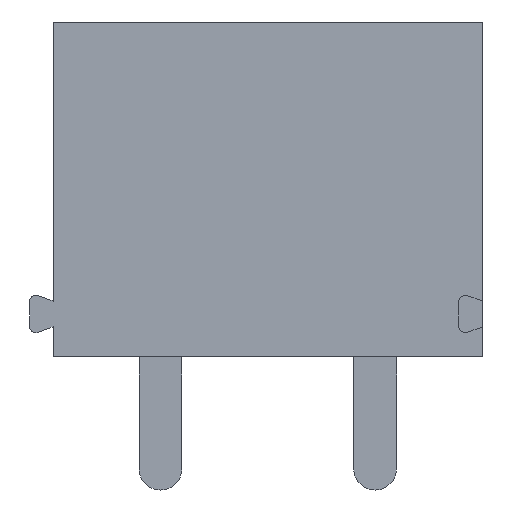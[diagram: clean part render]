
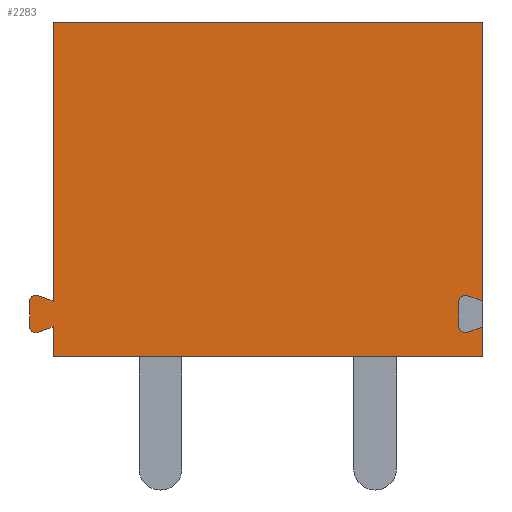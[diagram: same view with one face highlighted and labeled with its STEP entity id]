
A CAD part, front view. The second image highlights one B-rep face of the part: STEP entity #2283.
In plain terms, the highlighted planar face has unit normal (0, -1, 0).
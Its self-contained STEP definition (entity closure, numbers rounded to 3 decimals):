
#20 = EDGE_CURVE ( 'NONE', #3886, #2847, #743, .T. ) ;
#26 = EDGE_LOOP ( 'NONE', ( #552, #3804, #2532, #2043, #805, #1462, #2980, #870, #3319, #1274, #2500, #2586, #4011, #2347, #1061, #823, #2230 ) ) ;
#66 = VECTOR ( 'NONE', #956, 1000. ) ;
#172 = DIRECTION ( 'NONE',  ( 0.342, 0., 0.94 ) ) ;
#186 = VERTEX_POINT ( 'NONE', #1724 ) ;
#188 = CARTESIAN_POINT ( 'NONE',  ( 0., 0., 7.8 ) ) ;
#279 = DIRECTION ( 'NONE',  ( 0., -1., 0. ) ) ;
#298 = CARTESIAN_POINT ( 'NONE',  ( 0., 0., 0. ) ) ;
#352 = DIRECTION ( 'NONE',  ( 0., -1., 0. ) ) ;
#389 = VECTOR ( 'NONE', #434, 1000. ) ;
#391 = CARTESIAN_POINT ( 'NONE',  ( 9.6, 0., 0.714 ) ) ;
#434 = DIRECTION ( 'NONE',  ( 0., 0., -1. ) ) ;
#443 = CARTESIAN_POINT ( 'NONE',  ( 9.651, 0., 0.573 ) ) ;
#488 = CARTESIAN_POINT ( 'NONE',  ( 9.651, 0., 0.573 ) ) ;
#528 = VECTOR ( 'NONE', #1631, 1000. ) ;
#543 = VERTEX_POINT ( 'NONE', #1488 ) ;
#552 = ORIENTED_EDGE ( 'NONE', *, *, #1972, .T. ) ;
#580 = DIRECTION ( 'NONE',  ( -1., 0., 0. ) ) ;
#612 = VERTEX_POINT ( 'NONE', #1866 ) ;
#642 = DIRECTION ( 'NONE',  ( 0., 0., -1. ) ) ;
#666 = VERTEX_POINT ( 'NONE', #1529 ) ;
#702 = CARTESIAN_POINT ( 'NONE',  ( -0.4, 0., 1.436 ) ) ;
#726 = EDGE_CURVE ( 'NONE', #2510, #3947, #2989, .T. ) ;
#736 = EDGE_CURVE ( 'NONE', #3947, #1721, #3744, .T. ) ;
#743 = LINE ( 'NONE', #758, #1285 ) ;
#758 = CARTESIAN_POINT ( 'NONE',  ( 10., 0., 0.7 ) ) ;
#777 = AXIS2_PLACEMENT_3D ( 'NONE', #2679, #778, #3004 ) ;
#778 = DIRECTION ( 'NONE',  ( 0., -1., 0. ) ) ;
#805 = ORIENTED_EDGE ( 'NONE', *, *, #3685, .T. ) ;
#823 = ORIENTED_EDGE ( 'NONE', *, *, #2863, .F. ) ;
#832 = EDGE_CURVE ( 'NONE', #3429, #612, #1559, .T. ) ;
#859 = CARTESIAN_POINT ( 'NONE',  ( 10., 0., 0. ) ) ;
#862 = VERTEX_POINT ( 'NONE', #298 ) ;
#870 = ORIENTED_EDGE ( 'NONE', *, *, #2438, .T. ) ;
#884 = DIRECTION ( 'NONE',  ( 0., -1., 0. ) ) ;
#885 = EDGE_CURVE ( 'NONE', #1721, #2896, #1091, .T. ) ;
#912 = AXIS2_PLACEMENT_3D ( 'NONE', #391, #2820, #1627 ) ;
#956 = DIRECTION ( 'NONE',  ( 0., 0., -1. ) ) ;
#1003 = LINE ( 'NONE', #1020, #528 ) ;
#1020 = CARTESIAN_POINT ( 'NONE',  ( 10., 0., 1.3 ) ) ;
#1057 = CARTESIAN_POINT ( 'NONE',  ( -0.349, 0., 1.427 ) ) ;
#1061 = ORIENTED_EDGE ( 'NONE', *, *, #3574, .F. ) ;
#1091 = CIRCLE ( 'NONE', #1550, 0.15 ) ;
#1097 = VECTOR ( 'NONE', #3235, 1000. ) ;
#1257 = DIRECTION ( 'NONE',  ( 0.94, 0., 0.342 ) ) ;
#1274 = ORIENTED_EDGE ( 'NONE', *, *, #20, .F. ) ;
#1285 = VECTOR ( 'NONE', #2296, 1000. ) ;
#1296 = VECTOR ( 'NONE', #1701, 1000. ) ;
#1304 = CARTESIAN_POINT ( 'NONE',  ( -0.55, 0., 1.286 ) ) ;
#1367 = VECTOR ( 'NONE', #2110, 1000. ) ;
#1419 = DIRECTION ( 'NONE',  ( 0., 0., -1. ) ) ;
#1462 = ORIENTED_EDGE ( 'NONE', *, *, #3439, .T. ) ;
#1480 = EDGE_CURVE ( 'NONE', #2241, #543, #2614, .T. ) ;
#1488 = CARTESIAN_POINT ( 'NONE',  ( 10., 0., 7.8 ) ) ;
#1529 = CARTESIAN_POINT ( 'NONE',  ( 10., 0., 1.3 ) ) ;
#1550 = AXIS2_PLACEMENT_3D ( 'NONE', #3970, #279, #3682 ) ;
#1559 = LINE ( 'NONE', #3383, #3034 ) ;
#1568 = AXIS2_PLACEMENT_3D ( 'NONE', #3702, #884, #580 ) ;
#1605 = VECTOR ( 'NONE', #3509, 1000. ) ;
#1606 = CARTESIAN_POINT ( 'NONE',  ( 0., 0., 1.3 ) ) ;
#1620 = CIRCLE ( 'NONE', #2465, 0.15 ) ;
#1627 = DIRECTION ( 'NONE',  ( -1., 0., 0. ) ) ;
#1631 = DIRECTION ( 'NONE',  ( -0.94, 0., 0.342 ) ) ;
#1649 = LINE ( 'NONE', #1974, #389 ) ;
#1657 = CARTESIAN_POINT ( 'NONE',  ( 9.45, 0., 1.286 ) ) ;
#1701 = DIRECTION ( 'NONE',  ( 1., 0., 0. ) ) ;
#1721 = VERTEX_POINT ( 'NONE', #702 ) ;
#1724 = CARTESIAN_POINT ( 'NONE',  ( 9.651, 0., 1.427 ) ) ;
#1812 = LINE ( 'NONE', #3049, #66 ) ;
#1820 = EDGE_CURVE ( 'NONE', #2847, #862, #2561, .T. ) ;
#1839 = CARTESIAN_POINT ( 'NONE',  ( 0., 0., 7.8 ) ) ;
#1866 = CARTESIAN_POINT ( 'NONE',  ( 0., 0., 0.7 ) ) ;
#1972 = EDGE_CURVE ( 'NONE', #2241, #2510, #3054, .T. ) ;
#1974 = CARTESIAN_POINT ( 'NONE',  ( 9.45, 0., 1.286 ) ) ;
#2043 = ORIENTED_EDGE ( 'NONE', *, *, #885, .T. ) ;
#2110 = DIRECTION ( 'NONE',  ( 0., 0., -1. ) ) ;
#2124 = AXIS2_PLACEMENT_3D ( 'NONE', #2669, #3485, #172 ) ;
#2194 = EDGE_CURVE ( 'NONE', #3001, #2343, #1649, .T. ) ;
#2230 = ORIENTED_EDGE ( 'NONE', *, *, #1480, .F. ) ;
#2231 = DIRECTION ( 'NONE',  ( 0.342, 0., 0.94 ) ) ;
#2241 = VERTEX_POINT ( 'NONE', #188 ) ;
#2283 = ADVANCED_FACE ( 'NONE', ( #3856 ), #3590, .T. ) ;
#2296 = DIRECTION ( 'NONE',  ( 0., 0., -1. ) ) ;
#2343 = VERTEX_POINT ( 'NONE', #2699 ) ;
#2347 = ORIENTED_EDGE ( 'NONE', *, *, #2541, .F. ) ;
#2415 = LINE ( 'NONE', #2800, #1367 ) ;
#2438 = EDGE_CURVE ( 'NONE', #612, #862, #1812, .T. ) ;
#2465 = AXIS2_PLACEMENT_3D ( 'NONE', #3188, #352, #2231 ) ;
#2500 = ORIENTED_EDGE ( 'NONE', *, *, #3571, .F. ) ;
#2502 = VERTEX_POINT ( 'NONE', #3127 ) ;
#2510 = VERTEX_POINT ( 'NONE', #1606 ) ;
#2532 = ORIENTED_EDGE ( 'NONE', *, *, #736, .T. ) ;
#2539 = LINE ( 'NONE', #488, #3505 ) ;
#2541 = EDGE_CURVE ( 'NONE', #186, #3001, #1620, .T. ) ;
#2555 = EDGE_CURVE ( 'NONE', #2343, #3992, #3048, .T. ) ;
#2561 = LINE ( 'NONE', #3500, #1097 ) ;
#2586 = ORIENTED_EDGE ( 'NONE', *, *, #2555, .F. ) ;
#2614 = LINE ( 'NONE', #2657, #1296 ) ;
#2657 = CARTESIAN_POINT ( 'NONE',  ( 0., 0., 7.8 ) ) ;
#2663 = VECTOR ( 'NONE', #1419, 1000. ) ;
#2669 = CARTESIAN_POINT ( 'NONE',  ( -0.4, 0., 1.286 ) ) ;
#2679 = CARTESIAN_POINT ( 'NONE',  ( 0., 0., 7.8 ) ) ;
#2694 = CARTESIAN_POINT ( 'NONE',  ( -0.55, 0., 1.286 ) ) ;
#2699 = CARTESIAN_POINT ( 'NONE',  ( 9.45, 0., 0.714 ) ) ;
#2800 = CARTESIAN_POINT ( 'NONE',  ( 10., 0., 7.8 ) ) ;
#2820 = DIRECTION ( 'NONE',  ( 0., -1., 0. ) ) ;
#2847 = VERTEX_POINT ( 'NONE', #859 ) ;
#2863 = EDGE_CURVE ( 'NONE', #543, #666, #2415, .T. ) ;
#2894 = CARTESIAN_POINT ( 'NONE',  ( 0., 0., 1.3 ) ) ;
#2896 = VERTEX_POINT ( 'NONE', #1304 ) ;
#2980 = ORIENTED_EDGE ( 'NONE', *, *, #832, .T. ) ;
#2989 = LINE ( 'NONE', #2894, #1605 ) ;
#3001 = VERTEX_POINT ( 'NONE', #1657 ) ;
#3004 = DIRECTION ( 'NONE',  ( 0., 0., -1. ) ) ;
#3034 = VECTOR ( 'NONE', #1257, 1000. ) ;
#3048 = CIRCLE ( 'NONE', #912, 0.15 ) ;
#3049 = CARTESIAN_POINT ( 'NONE',  ( 0., 0., 0.7 ) ) ;
#3054 = LINE ( 'NONE', #1839, #3104 ) ;
#3104 = VECTOR ( 'NONE', #642, 1000. ) ;
#3127 = CARTESIAN_POINT ( 'NONE',  ( -0.55, 0., 0.714 ) ) ;
#3188 = CARTESIAN_POINT ( 'NONE',  ( 9.6, 0., 1.286 ) ) ;
#3235 = DIRECTION ( 'NONE',  ( -1., 0., 0. ) ) ;
#3319 = ORIENTED_EDGE ( 'NONE', *, *, #1820, .F. ) ;
#3381 = CARTESIAN_POINT ( 'NONE',  ( -0.349, 0., 0.573 ) ) ;
#3382 = CIRCLE ( 'NONE', #1568, 0.15 ) ;
#3383 = CARTESIAN_POINT ( 'NONE',  ( -0.349, 0., 0.573 ) ) ;
#3429 = VERTEX_POINT ( 'NONE', #3381 ) ;
#3439 = EDGE_CURVE ( 'NONE', #2502, #3429, #3382, .T. ) ;
#3485 = DIRECTION ( 'NONE',  ( 0., -1., 0. ) ) ;
#3500 = CARTESIAN_POINT ( 'NONE',  ( 10., 0., 0. ) ) ;
#3505 = VECTOR ( 'NONE', #3781, 1000. ) ;
#3509 = DIRECTION ( 'NONE',  ( -0.94, 0., 0.342 ) ) ;
#3571 = EDGE_CURVE ( 'NONE', #3992, #3886, #2539, .T. ) ;
#3574 = EDGE_CURVE ( 'NONE', #666, #186, #1003, .T. ) ;
#3590 = PLANE ( 'NONE',  #777 ) ;
#3682 = DIRECTION ( 'NONE',  ( 0.342, 0., 0.94 ) ) ;
#3685 = EDGE_CURVE ( 'NONE', #2896, #2502, #3893, .T. ) ;
#3691 = CARTESIAN_POINT ( 'NONE',  ( 10., 0., 0.7 ) ) ;
#3702 = CARTESIAN_POINT ( 'NONE',  ( -0.4, 0., 0.714 ) ) ;
#3744 = CIRCLE ( 'NONE', #2124, 0.15 ) ;
#3781 = DIRECTION ( 'NONE',  ( 0.94, 0., 0.342 ) ) ;
#3804 = ORIENTED_EDGE ( 'NONE', *, *, #726, .T. ) ;
#3856 = FACE_OUTER_BOUND ( 'NONE', #26, .T. ) ;
#3886 = VERTEX_POINT ( 'NONE', #3691 ) ;
#3893 = LINE ( 'NONE', #2694, #2663 ) ;
#3947 = VERTEX_POINT ( 'NONE', #1057 ) ;
#3970 = CARTESIAN_POINT ( 'NONE',  ( -0.4, 0., 1.286 ) ) ;
#3992 = VERTEX_POINT ( 'NONE', #443 ) ;
#4011 = ORIENTED_EDGE ( 'NONE', *, *, #2194, .F. ) ;
